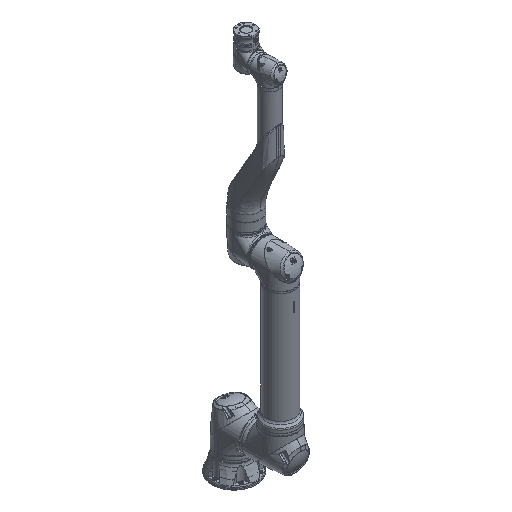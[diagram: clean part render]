
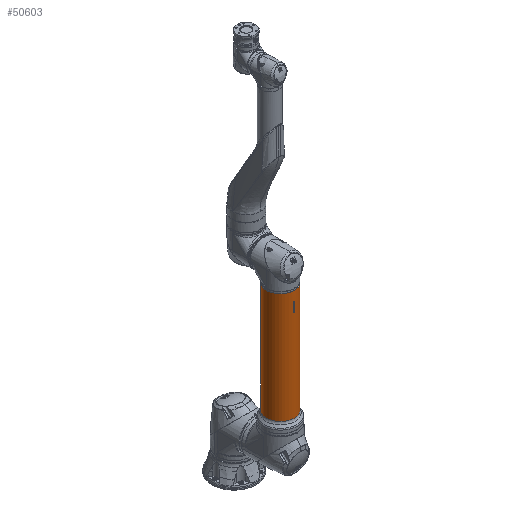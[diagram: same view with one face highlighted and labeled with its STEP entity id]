
A CAD part, isometric view. The second image highlights one B-rep face of the part: STEP entity #50603.
In plain terms, the highlighted cylindrical face has radius 76 mm (diameter 152 mm), a full revolution.
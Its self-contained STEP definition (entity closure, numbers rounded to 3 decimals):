
#1301=FACE_BOUND('',#15026,.T.);
#1302=FACE_BOUND('',#15027,.T.);
#1858=CYLINDRICAL_SURFACE('',#55040,76.);
#2996=B_SPLINE_CURVE_WITH_KNOTS('',3,(#97644,#97645,#97646,#97647,#97648,
#97649,#97650,#97651,#97652,#97653,#97654,#97655,#97656,#97657,#97658,#97659,
#97660,#97661),.UNSPECIFIED.,.F.,.F.,(4,2,2,2,2,2,2,2,4),(0.,0.128,
0.256,0.384,0.512,0.64,
0.769,0.897,1.025),.UNSPECIFIED.);
#2997=B_SPLINE_CURVE_WITH_KNOTS('',3,(#97668,#97669,#97670,#97671,#97672,
#97673,#97674,#97675,#97676,#97677,#97678,#97679,#97680,#97681,#97682,#97683,
#97684,#97685),.UNSPECIFIED.,.F.,.F.,(4,2,2,2,2,2,2,2,4),(-2.049,
-1.921,-1.793,-1.665,-1.537,
-1.409,-1.281,-1.153,-1.025),
 .UNSPECIFIED.);
#2998=B_SPLINE_CURVE_WITH_KNOTS('',3,(#97694,#97695,#97696,#97697,#97698,
#97699,#97700,#97701,#97702,#97703,#97704,#97705,#97706,#97707,#97708,#97709,
#97710,#97711),.UNSPECIFIED.,.F.,.F.,(4,2,2,2,2,2,2,2,4),(0.,0.128,
0.256,0.384,0.512,0.64,
0.769,0.897,1.025),.UNSPECIFIED.);
#2999=B_SPLINE_CURVE_WITH_KNOTS('',3,(#97718,#97719,#97720,#97721,#97722,
#97723,#97724,#97725,#97726,#97727,#97728,#97729,#97730,#97731,#97732,#97733,
#97734,#97735),.UNSPECIFIED.,.F.,.F.,(4,2,2,2,2,2,2,2,4),(-2.049,
-1.921,-1.793,-1.665,-1.537,
-1.409,-1.281,-1.153,-1.025),
 .UNSPECIFIED.);
#6164=LINE('',#97639,#9144);
#6168=LINE('',#97665,#9148);
#6170=LINE('',#97689,#9150);
#6174=LINE('',#97715,#9154);
#6176=LINE('',#97739,#9156);
#9144=VECTOR('',#64259,10.);
#9148=VECTOR('',#64267,10.);
#9150=VECTOR('',#64273,10.);
#9154=VECTOR('',#64281,10.);
#9156=VECTOR('',#64289,76.);
#12000=FACE_OUTER_BOUND('',#15025,.T.);
#15025=EDGE_LOOP('',(#38858,#38859,#38860,#38861,#38862));
#15026=EDGE_LOOP('',(#38863,#38864,#38865,#38866));
#15027=EDGE_LOOP('',(#38867,#38868,#38869,#38870));
#17815=CIRCLE('',#55029,76.);
#17816=CIRCLE('',#55030,76.);
#17818=CIRCLE('',#55041,76.);
#21276=VERTEX_POINT('',#97631);
#21277=VERTEX_POINT('',#97632);
#21278=VERTEX_POINT('',#97637);
#21279=VERTEX_POINT('',#97638);
#21280=VERTEX_POINT('',#97643);
#21281=VERTEX_POINT('',#97664);
#21282=VERTEX_POINT('',#97687);
#21283=VERTEX_POINT('',#97688);
#21284=VERTEX_POINT('',#97693);
#21285=VERTEX_POINT('',#97714);
#21286=VERTEX_POINT('',#97737);
#27570=EDGE_CURVE('',#21276,#21277,#17815,.T.);
#27571=EDGE_CURVE('',#21277,#21276,#17816,.T.);
#27573=EDGE_CURVE('',#21278,#21279,#6164,.T.);
#27576=EDGE_CURVE('',#21280,#21278,#2996,.T.);
#27578=EDGE_CURVE('',#21281,#21280,#6168,.T.);
#27580=EDGE_CURVE('',#21279,#21281,#2997,.F.);
#27581=EDGE_CURVE('',#21282,#21283,#6170,.T.);
#27584=EDGE_CURVE('',#21284,#21282,#2998,.T.);
#27586=EDGE_CURVE('',#21285,#21284,#6174,.T.);
#27588=EDGE_CURVE('',#21283,#21285,#2999,.F.);
#27589=EDGE_CURVE('',#21286,#21286,#17818,.T.);
#27590=EDGE_CURVE('',#21286,#21276,#6176,.T.);
#38858=ORIENTED_EDGE('',*,*,#27589,.F.);
#38859=ORIENTED_EDGE('',*,*,#27590,.T.);
#38860=ORIENTED_EDGE('',*,*,#27570,.T.);
#38861=ORIENTED_EDGE('',*,*,#27571,.T.);
#38862=ORIENTED_EDGE('',*,*,#27590,.F.);
#38863=ORIENTED_EDGE('',*,*,#27588,.T.);
#38864=ORIENTED_EDGE('',*,*,#27586,.T.);
#38865=ORIENTED_EDGE('',*,*,#27584,.T.);
#38866=ORIENTED_EDGE('',*,*,#27581,.T.);
#38867=ORIENTED_EDGE('',*,*,#27580,.T.);
#38868=ORIENTED_EDGE('',*,*,#27578,.T.);
#38869=ORIENTED_EDGE('',*,*,#27576,.T.);
#38870=ORIENTED_EDGE('',*,*,#27573,.T.);
#50603=ADVANCED_FACE('',(#12000,#1301,#1302),#1858,.T.);
#55029=AXIS2_PLACEMENT_3D('',#97633,#64251,#64252);
#55030=AXIS2_PLACEMENT_3D('',#97634,#64253,#64254);
#55040=AXIS2_PLACEMENT_3D('',#97736,#64285,#64286);
#55041=AXIS2_PLACEMENT_3D('',#97738,#64287,#64288);
#64251=DIRECTION('center_axis',(-1.,0.,0.));
#64252=DIRECTION('ref_axis',(0.,0.,1.));
#64253=DIRECTION('center_axis',(-1.,0.,0.));
#64254=DIRECTION('ref_axis',(0.,0.,1.));
#64259=DIRECTION('',(1.,0.,0.));
#64267=DIRECTION('',(-1.,0.,0.));
#64273=DIRECTION('',(-1.,0.,0.));
#64281=DIRECTION('',(1.,0.,0.));
#64285=DIRECTION('center_axis',(-1.,0.,0.));
#64286=DIRECTION('ref_axis',(0.,0.,-1.));
#64287=DIRECTION('center_axis',(-1.,0.,0.));
#64288=DIRECTION('ref_axis',(0.,0.,1.));
#64289=DIRECTION('',(1.,0.,0.));
#97631=CARTESIAN_POINT('',(579.155,0.,76.));
#97632=CARTESIAN_POINT('',(579.155,0.,-76.));
#97633=CARTESIAN_POINT('Origin',(579.155,0.,0.));
#97634=CARTESIAN_POINT('Origin',(579.155,0.,0.));
#97637=CARTESIAN_POINT('',(28.2,75.924,-3.4));
#97638=CARTESIAN_POINT('',(73.8,75.924,-3.4));
#97639=CARTESIAN_POINT('',(275.078,75.924,-3.4));
#97643=CARTESIAN_POINT('',(28.2,75.924,3.4));
#97644=CARTESIAN_POINT('Ctrl Pts',(28.2,75.924,3.4));
#97645=CARTESIAN_POINT('Ctrl Pts',(27.773,75.924,3.4));
#97646=CARTESIAN_POINT('Ctrl Pts',(27.318,75.928,3.315));
#97647=CARTESIAN_POINT('Ctrl Pts',(26.48,75.942,2.968));
#97648=CARTESIAN_POINT('Ctrl Pts',(26.098,75.952,2.706));
#97649=CARTESIAN_POINT('Ctrl Pts',(25.494,75.972,2.102));
#97650=CARTESIAN_POINT('Ctrl Pts',(25.232,75.982,1.72));
#97651=CARTESIAN_POINT('Ctrl Pts',(24.885,75.996,0.882));
#97652=CARTESIAN_POINT('Ctrl Pts',(24.8,76.,0.427));
#97653=CARTESIAN_POINT('Ctrl Pts',(24.8,76.,-0.427));
#97654=CARTESIAN_POINT('Ctrl Pts',(24.885,75.996,-0.882));
#97655=CARTESIAN_POINT('Ctrl Pts',(25.232,75.982,-1.72));
#97656=CARTESIAN_POINT('Ctrl Pts',(25.494,75.972,-2.102));
#97657=CARTESIAN_POINT('Ctrl Pts',(26.098,75.952,-2.706));
#97658=CARTESIAN_POINT('Ctrl Pts',(26.48,75.942,-2.968));
#97659=CARTESIAN_POINT('Ctrl Pts',(27.318,75.928,-3.315));
#97660=CARTESIAN_POINT('Ctrl Pts',(27.773,75.924,-3.4));
#97661=CARTESIAN_POINT('Ctrl Pts',(28.2,75.924,-3.4));
#97664=CARTESIAN_POINT('',(73.8,75.924,3.4));
#97665=CARTESIAN_POINT('',(275.078,75.924,3.4));
#97668=CARTESIAN_POINT('Ctrl Pts',(73.8,75.924,3.4));
#97669=CARTESIAN_POINT('Ctrl Pts',(74.227,75.924,3.4));
#97670=CARTESIAN_POINT('Ctrl Pts',(74.682,75.928,3.315));
#97671=CARTESIAN_POINT('Ctrl Pts',(75.52,75.942,2.968));
#97672=CARTESIAN_POINT('Ctrl Pts',(75.902,75.952,2.706));
#97673=CARTESIAN_POINT('Ctrl Pts',(76.506,75.972,2.102));
#97674=CARTESIAN_POINT('Ctrl Pts',(76.768,75.982,1.72));
#97675=CARTESIAN_POINT('Ctrl Pts',(77.115,75.996,0.882));
#97676=CARTESIAN_POINT('Ctrl Pts',(77.2,76.,0.427));
#97677=CARTESIAN_POINT('Ctrl Pts',(77.2,76.,-0.427));
#97678=CARTESIAN_POINT('Ctrl Pts',(77.115,75.996,-0.882));
#97679=CARTESIAN_POINT('Ctrl Pts',(76.768,75.982,-1.72));
#97680=CARTESIAN_POINT('Ctrl Pts',(76.506,75.972,-2.102));
#97681=CARTESIAN_POINT('Ctrl Pts',(75.902,75.952,-2.706));
#97682=CARTESIAN_POINT('Ctrl Pts',(75.52,75.942,-2.968));
#97683=CARTESIAN_POINT('Ctrl Pts',(74.682,75.928,-3.315));
#97684=CARTESIAN_POINT('Ctrl Pts',(74.227,75.924,-3.4));
#97685=CARTESIAN_POINT('Ctrl Pts',(73.8,75.924,-3.4));
#97687=CARTESIAN_POINT('',(73.8,-75.924,-3.4));
#97688=CARTESIAN_POINT('',(28.2,-75.924,-3.4));
#97689=CARTESIAN_POINT('',(275.078,-75.924,-3.4));
#97693=CARTESIAN_POINT('',(73.8,-75.924,3.4));
#97694=CARTESIAN_POINT('Ctrl Pts',(73.8,-75.924,3.4));
#97695=CARTESIAN_POINT('Ctrl Pts',(74.227,-75.924,3.4));
#97696=CARTESIAN_POINT('Ctrl Pts',(74.682,-75.928,3.315));
#97697=CARTESIAN_POINT('Ctrl Pts',(75.52,-75.942,2.968));
#97698=CARTESIAN_POINT('Ctrl Pts',(75.902,-75.952,2.706));
#97699=CARTESIAN_POINT('Ctrl Pts',(76.506,-75.972,2.102));
#97700=CARTESIAN_POINT('Ctrl Pts',(76.768,-75.982,1.72));
#97701=CARTESIAN_POINT('Ctrl Pts',(77.115,-75.996,0.882));
#97702=CARTESIAN_POINT('Ctrl Pts',(77.2,-76.,0.427));
#97703=CARTESIAN_POINT('Ctrl Pts',(77.2,-76.,-0.427));
#97704=CARTESIAN_POINT('Ctrl Pts',(77.115,-75.996,-0.882));
#97705=CARTESIAN_POINT('Ctrl Pts',(76.768,-75.982,-1.72));
#97706=CARTESIAN_POINT('Ctrl Pts',(76.506,-75.972,-2.102));
#97707=CARTESIAN_POINT('Ctrl Pts',(75.902,-75.952,-2.706));
#97708=CARTESIAN_POINT('Ctrl Pts',(75.52,-75.942,-2.968));
#97709=CARTESIAN_POINT('Ctrl Pts',(74.682,-75.928,-3.315));
#97710=CARTESIAN_POINT('Ctrl Pts',(74.227,-75.924,-3.4));
#97711=CARTESIAN_POINT('Ctrl Pts',(73.8,-75.924,-3.4));
#97714=CARTESIAN_POINT('',(28.2,-75.924,3.4));
#97715=CARTESIAN_POINT('',(275.078,-75.924,3.4));
#97718=CARTESIAN_POINT('Ctrl Pts',(28.2,-75.924,3.4));
#97719=CARTESIAN_POINT('Ctrl Pts',(27.773,-75.924,3.4));
#97720=CARTESIAN_POINT('Ctrl Pts',(27.318,-75.928,3.315));
#97721=CARTESIAN_POINT('Ctrl Pts',(26.48,-75.942,2.968));
#97722=CARTESIAN_POINT('Ctrl Pts',(26.098,-75.952,2.706));
#97723=CARTESIAN_POINT('Ctrl Pts',(25.494,-75.972,2.102));
#97724=CARTESIAN_POINT('Ctrl Pts',(25.232,-75.982,1.72));
#97725=CARTESIAN_POINT('Ctrl Pts',(24.885,-75.996,0.882));
#97726=CARTESIAN_POINT('Ctrl Pts',(24.8,-76.,0.427));
#97727=CARTESIAN_POINT('Ctrl Pts',(24.8,-76.,-0.427));
#97728=CARTESIAN_POINT('Ctrl Pts',(24.885,-75.996,-0.882));
#97729=CARTESIAN_POINT('Ctrl Pts',(25.232,-75.982,-1.72));
#97730=CARTESIAN_POINT('Ctrl Pts',(25.494,-75.972,-2.102));
#97731=CARTESIAN_POINT('Ctrl Pts',(26.098,-75.952,-2.706));
#97732=CARTESIAN_POINT('Ctrl Pts',(26.48,-75.942,-2.968));
#97733=CARTESIAN_POINT('Ctrl Pts',(27.318,-75.928,-3.315));
#97734=CARTESIAN_POINT('Ctrl Pts',(27.773,-75.924,-3.4));
#97735=CARTESIAN_POINT('Ctrl Pts',(28.2,-75.924,-3.4));
#97736=CARTESIAN_POINT('Origin',(275.078,0.,0.));
#97737=CARTESIAN_POINT('',(-29.,0.,76.));
#97738=CARTESIAN_POINT('Origin',(-29.,0.,0.));
#97739=CARTESIAN_POINT('',(275.078,0.,76.));
